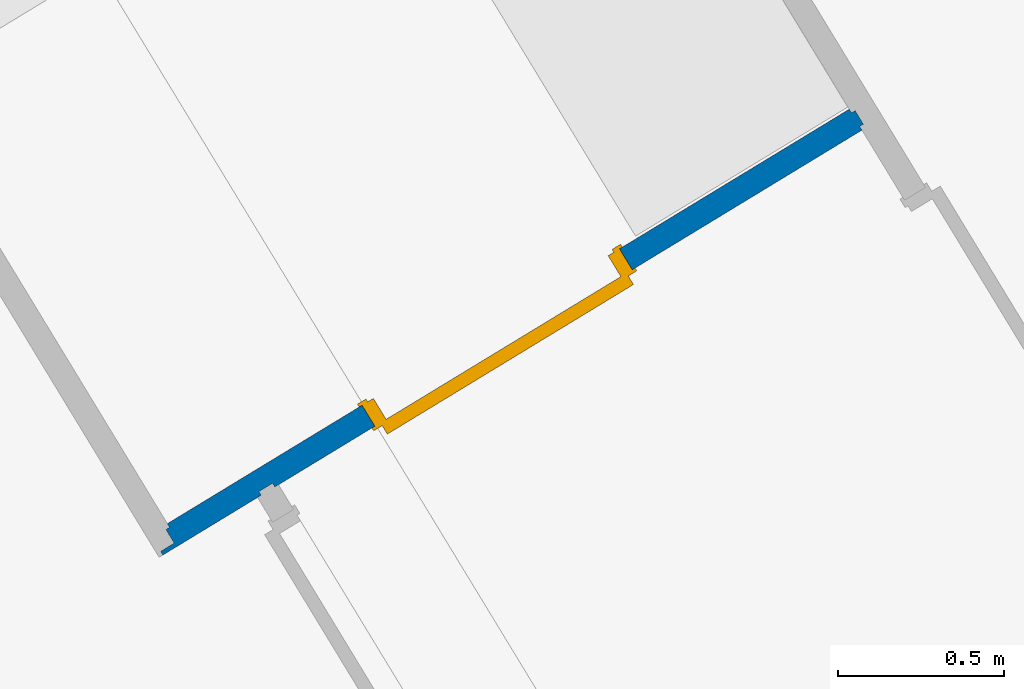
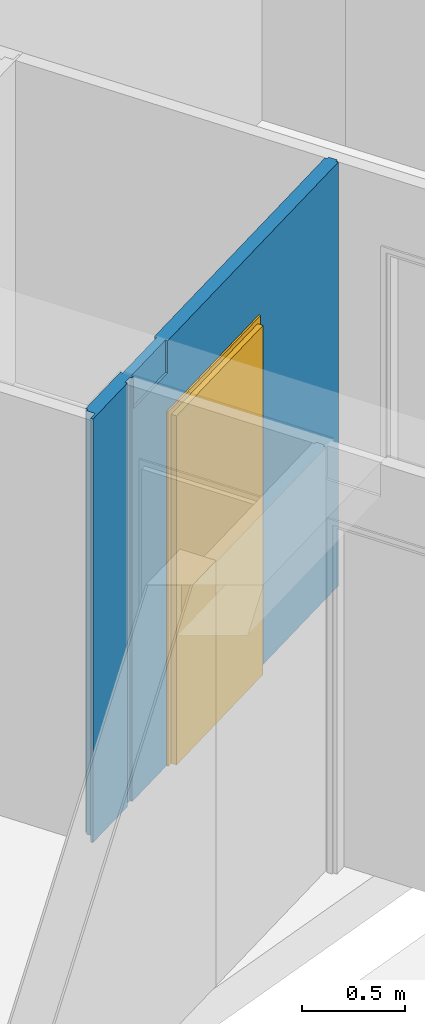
# One storey, part 32 of 119: 1 door, 1 wall, 1 opening.
"""IFC2X3 building model written with IfcOpenShell, lengths in metres."""

from ifc_helpers import new_model, entity, si_unit, converted_unit, derived_unit, money_unit, direction, frame, origin_with_axes, place, context, subcontext, project, spatial, faceted_brep, source, transform, mapped, material, material_list, type_object, element, fill, save


model = new_model("IFC2X3")

# Units and contexts
model_context = context("Model", 3, precision=1e-05, world=origin_with_axes(), true_north=direction((0.0, 1.0)))
body_context = subcontext(model_context, "Body", "Model", "MODEL_VIEW")
ifc_project = project(units=[si_unit("LENGTHUNIT", "METRE"), si_unit("AREAUNIT", "SQUARE_METRE"), si_unit("VOLUMEUNIT", "CUBIC_METRE"), converted_unit("PLANEANGLEUNIT", "DEGREE", entity("IfcPlaneAngleMeasure", 0.0174532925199), si_unit("PLANEANGLEUNIT", "RADIAN"), dimensions=[0, 0, 0, 0, 0, 0, 0]), si_unit("SOLIDANGLEUNIT", "STERADIAN"), money_unit("EUR"), converted_unit("TIMEUNIT", "Year", entity("IfcTimeMeasure", 31556926.0), si_unit("TIMEUNIT", "SECOND"), dimensions=[0, 0, 1, 0, 0, 0, 0]), si_unit("MASSUNIT", "GRAM", prefix="KILO"), si_unit("THERMODYNAMICTEMPERATUREUNIT", "DEGREE_CELSIUS"), si_unit("LUMINOUSINTENSITYUNIT", "LUMEN"), si_unit("ENERGYUNIT", "JOULE", prefix="MEGA"), derived_unit("THERMALCONDUCTANCEUNIT", [(si_unit("POWERUNIT", "WATT"), 1), (si_unit("LENGTHUNIT", "METRE"), -1), (si_unit("THERMODYNAMICTEMPERATUREUNIT", "KELVIN"), -1)]), derived_unit("SPECIFICHEATCAPACITYUNIT", [(si_unit("ENERGYUNIT", "JOULE"), 1), (si_unit("MASSUNIT", "GRAM", prefix="KILO"), -1), (si_unit("THERMODYNAMICTEMPERATUREUNIT", "KELVIN"), -1)]), derived_unit("MASSDENSITYUNIT", [(si_unit("MASSUNIT", "GRAM", prefix="KILO"), 1), (si_unit("VOLUMEUNIT", "CUBIC_METRE"), -1)])], contexts=[model_context])

# Site, building, storey
site_placement = place(None, origin_with_axes())
site = spatial("IfcSite", under=ifc_project, at=site_placement, Name="Site", CompositionType="ELEMENT")
building_placement = place(site_placement, origin_with_axes())
building = spatial("IfcBuilding", under=site, at=building_placement, Name="Bâtiment", CompositionType="ELEMENT")
storey_placement = place(building_placement, origin_with_axes())
storey = spatial("IfcBuildingStorey", under=building, at=storey_placement, Name="Rez-de-chaussée", CompositionType="ELEMENT", Elevation=0.0)

# Wall, opening, door
ifc_material_1 = material(Name="Finition int - Plaque de plâtre")
ifc_material_2 = material(Name="Isolation - Laine de roche")
ifc_material_list = material_list([ifc_material_1, ifc_material_2, ifc_material_1])
wall_type = type_object("IfcWallType", Name="3 - Cloison 72mm Placostil 74", PredefinedType="USERDEFINED")
wall_placement = place(storey_placement, frame((-1.36651903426, 22.0117415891, 0.0), z_axis=(0.0, 0.0, 1.0), x_axis=(-0.854539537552, -0.519386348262, 0.0)))
wall = element("IfcWall", 1, at=wall_placement, inside=storey, type_object=wall_type, material=ifc_material_list, Name="Cloison Placostil 72/48", ObjectType="PARTITIONING", context=body_context, shape_type="Brep", body=[
    faceted_brep([(1.72212721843, 0.0, 0.0), (1.72212721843, -5.97531730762e-08, 2.08), (0.812127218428, -5.97531695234e-08, 2.08), (0.812127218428, 0.0, 0.0), (0.0, 0.0, 0.0), (0.0, 0.0, 2.5), (1.71805603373, 0.0, 2.5), (1.71805603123, 0.0, 2.31), (2.06242912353, -5.97531695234e-08, 2.31), (2.06242912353, -5.97531695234e-08, 2.5), (2.07542929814, 0.0, 2.5), (2.07542929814, 0.0, 0.0), (1.72212721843, -0.013, 0.0), (1.72212721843, -0.013, 2.08), (0.812127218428, -0.013, 2.08), (0.812127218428, -0.013, 0.0), (0.0, -0.013, 0.0), (0.0, -0.013, 2.5), (1.7180560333, -0.013, 2.5), (1.71805603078, -0.013, 2.31), (2.0620916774, -0.013, 2.31), (2.0620916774, -0.013, 2.5), (2.07542929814, -0.013, 2.5), (2.07542929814, -0.013, 0.0)], [[[0, 1, 2, 3, 4, 5, 6, 7, 8, 9, 10, 11]], [[1, 0, 12, 13]], [[2, 1, 13, 14]], [[3, 2, 14, 15]], [[3, 15, 16, 4]], [[17, 5, 4, 16]], [[6, 5, 17, 18]], [[6, 18, 19, 7]], [[7, 19, 20, 8]], [[9, 8, 20, 21]], [[21, 22, 10, 9]], [[22, 23, 11, 10]], [[12, 0, 11, 23]], [[13, 12, 23, 22, 21, 20, 19, 18, 17, 16, 15, 14]]]),
    faceted_brep([(2.47140263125, -0.013, 2.5), (2.47140263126, 0.0, 2.5), (2.12342929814, 0.0, 2.5), (2.12342929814, -0.013, 2.5), (2.47140263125, -0.013, 0.0), (2.47140263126, 0.0, 0.0), (2.12342929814, 0.0, 0.0), (2.12342929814, -0.013, 0.0)], [[[0, 1, 2, 3]], [[1, 0, 4, 5]], [[1, 5, 6, 2]], [[7, 3, 2, 6]], [[4, 0, 3, 7]], [[5, 4, 7, 6]]]),
    faceted_brep([(1.72212721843, -0.013, 0.0), (1.72212721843, -0.013, 2.08), (0.812127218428, -0.013, 2.08), (0.812127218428, -0.013, 0.0), (-0.0130000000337, -0.013, 0.0), (-0.0130000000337, -0.013, 2.5), (2.42340263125, -0.013, 2.5), (2.42340263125, -0.013, 0.0), (1.72212721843, -0.061, 0.0), (1.72212721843, -0.061, 2.08), (0.812127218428, -0.061, 2.08), (0.812127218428, -0.061, 0.0), (-0.0130000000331, -0.061, 0.0), (-0.0130000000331, -0.061, 2.5), (2.42340263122, -0.061, 2.5), (2.42340263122, -0.061, 0.0)], [[[0, 1, 2, 3, 4, 5, 6, 7]], [[1, 0, 8, 9]], [[2, 1, 9, 10]], [[3, 2, 10, 11]], [[3, 11, 12, 4]], [[13, 5, 4, 12]], [[6, 5, 13, 14]], [[14, 15, 7, 6]], [[8, 0, 7, 15]], [[9, 8, 15, 14, 13, 12, 11, 10]]]),
    faceted_brep([(1.72212721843, -0.061, 0.0), (1.72212721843, -0.061, 2.08), (0.812127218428, -0.061, 2.08), (0.812127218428, -0.061, 0.0), (0.0, -0.061, 0.0), (0.0, -0.061, 2.5), (1.71805603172, -0.061, 2.5), (1.71805602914, -0.061, 2.31), (2.06084571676, -0.061, 2.31), (2.06084571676, -0.061, 2.5), (2.41040263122, -0.061, 2.5), (2.41040263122, -0.061, 0.0), (1.72212721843, -0.074, 0.0), (1.72212721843, -0.074, 2.08), (0.812127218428, -0.074, 2.08), (0.812127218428, -0.074, 0.0), (0.0, -0.074, 0.0), (0.0, -0.074, 2.5), (1.71805603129, -0.074, 2.5), (1.71805602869, -0.074, 2.31), (2.0605082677, -0.0740000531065, 2.31), (2.0605082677, -0.0740000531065, 2.5), (2.4104026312, -0.074, 2.5), (2.4104026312, -0.074, 0.0)], [[[0, 1, 2, 3, 4, 5, 6, 7, 8, 9, 10, 11]], [[1, 0, 12, 13]], [[2, 1, 13, 14]], [[3, 2, 14, 15]], [[3, 15, 16, 4]], [[17, 5, 4, 16]], [[6, 5, 17, 18]], [[6, 18, 19, 7]], [[7, 19, 20, 8]], [[9, 8, 20, 21]], [[21, 22, 10, 9]], [[22, 23, 11, 10]], [[12, 0, 11, 23]], [[13, 12, 23, 22, 21, 20, 19, 18, 17, 16, 15, 14]]]),
])
opening_placement = place(wall_placement, frame((1.26712721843, 0.0, 0.0), z_axis=(0.0, 0.0, 1.0), x_axis=(1.0, 0.0, 0.0)))
opening = element("IfcOpeningElement", 2, at=opening_placement, cuts=wall, Name="Porte 83x204 bois alvéolaire", context=body_context, shape_type="Brep", body=[
    faceted_brep([(-0.455, 0.074, 0.0), (0.455, 0.074, 0.0), (0.455, -0.074, 0.0), (-0.455, -0.074, 0.0), (-0.455, 0.074, 2.08), (0.455, 0.074, 2.08), (0.455, -0.074, 2.08), (-0.455, -0.074, 2.08)], [[[0, 1, 2, 3]], [[0, 4, 5, 1]], [[1, 5, 6, 2]], [[3, 2, 6, 7]], [[4, 0, 3, 7]], [[5, 4, 7, 6]]]),
])
door_style = type_object("IfcDoorStyle", Name="Porte int générique 2019", ConstructionType="NOTDEFINED", OperationType="SINGLE_SWING_LEFT", ParameterTakesPrecedence=False, Sizeable=False)
shared_shape = source(origin_with_axes(), body_context, "Body", "Brep", [
    faceted_brep([(-0.455, 0.0, 0.0), (-0.455, 0.0, 2.08), (0.455, 0.0, 2.08), (0.455, 0.0, 0.0), (0.415, 0.0, 0.0), (0.415, 0.0, 2.04), (-0.415, 0.0, 2.04), (-0.415, 0.0, 0.0), (-0.455, -0.074, 0.0), (-0.455, -0.074, 2.08), (0.455, -0.074, 2.08), (0.455, -0.074, 0.0), (0.415, -0.074, 0.0), (0.415, -0.074, 2.04), (-0.415, -0.074, 2.04), (-0.415, -0.074, 0.0)], [[[0, 1, 2, 3, 4, 5, 6, 7]], [[8, 9, 1, 0]], [[9, 10, 2, 1]], [[10, 11, 3, 2]], [[3, 11, 12, 4]], [[5, 4, 12, 13]], [[6, 5, 13, 14]], [[7, 6, 14, 15]], [[0, 7, 15, 8]], [[15, 14, 13, 12, 11, 10, 9, 8]]]),
    faceted_brep([(-0.465, 0.0, 0.0), (-0.465, 0.0, 2.09), (-0.465, 0.01, 2.09), (-0.465, 0.01, 0.0), (-0.435, 0.0, 0.0), (-0.435, 0.0, 2.06), (0.435, 0.0, 2.06), (0.435, 0.0, 0.0), (0.465, 0.0, 0.0), (0.465, 0.0, 2.09), (0.465, 0.01, 2.09), (0.465, 0.01, 0.0), (0.435, 0.01, 0.0), (0.435, 0.01, 2.06), (-0.435, 0.01, 2.06), (-0.435, 0.01, 0.0)], [[[0, 1, 2, 3]], [[4, 5, 6, 7, 8, 9, 1, 0]], [[1, 9, 10, 2]], [[3, 2, 10, 11, 12, 13, 14, 15]], [[0, 3, 15, 4]], [[15, 14, 5, 4]], [[14, 13, 6, 5]], [[13, 12, 7, 6]], [[8, 7, 12, 11]], [[9, 8, 11, 10]]]),
    faceted_brep([(-0.465, -0.084, 0.0), (-0.465, -0.084, 2.09), (-0.465, -0.074, 2.09), (-0.465, -0.074, 0.0), (-0.435, -0.084, 0.0), (-0.435, -0.084, 2.06), (0.435, -0.084, 2.06), (0.435, -0.084, 0.0), (0.465, -0.084, 0.0), (0.465, -0.084, 2.09), (0.465, -0.074, 2.09), (0.465, -0.074, 0.0), (0.435, -0.074, 0.0), (0.435, -0.074, 2.06), (-0.435, -0.074, 2.06), (-0.435, -0.074, 0.0)], [[[0, 1, 2, 3]], [[4, 5, 6, 7, 8, 9, 1, 0]], [[1, 9, 10, 2]], [[3, 2, 10, 11, 12, 13, 14, 15]], [[0, 3, 15, 4]], [[15, 14, 5, 4]], [[14, 13, 6, 5]], [[13, 12, 7, 6]], [[8, 7, 12, 11]], [[9, 8, 11, 10]]]),
    faceted_brep([(-0.435, 0.04, 0.0), (0.435, 0.04, 0.0), (0.435, 0.0, 0.0), (-0.435, 0.0, 0.0), (-0.435, 0.04, 2.06), (0.435, 0.04, 2.06), (0.435, 0.0, 2.06), (-0.435, 0.0, 2.06)], [[[0, 1, 2, 3]], [[0, 4, 5, 1]], [[1, 5, 6, 2]], [[3, 2, 6, 7]], [[4, 0, 3, 7]], [[5, 4, 7, 6]]]),
])
door_placement = place(opening_placement, frame((-0.415, 0.0, 0.0), z_axis=(0.0, 0.0, 1.0), x_axis=(1.0, 0.0, 0.0)))
door = element("IfcDoor", 3, at=door_placement, inside=storey, type_object=door_style, Name="Porte 83x204 bois alvéolaire", ObjectType="DOOR", OverallHeight=2.04, OverallWidth=0.83, context=body_context, shape_type="MappedRepresentation", body=[
    mapped(shared_shape, transform((0.415, 0.0, 0.0))),
])
fill(opening, door)

save(model, "model.ifc")
